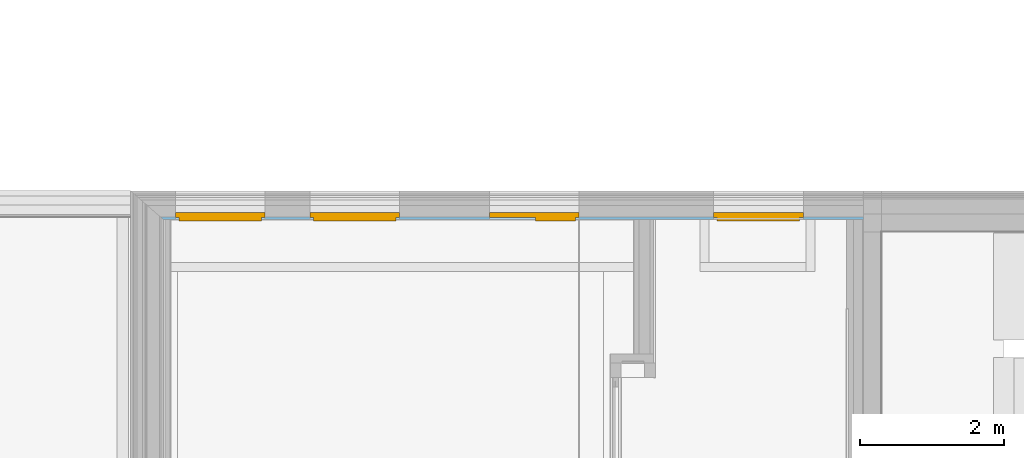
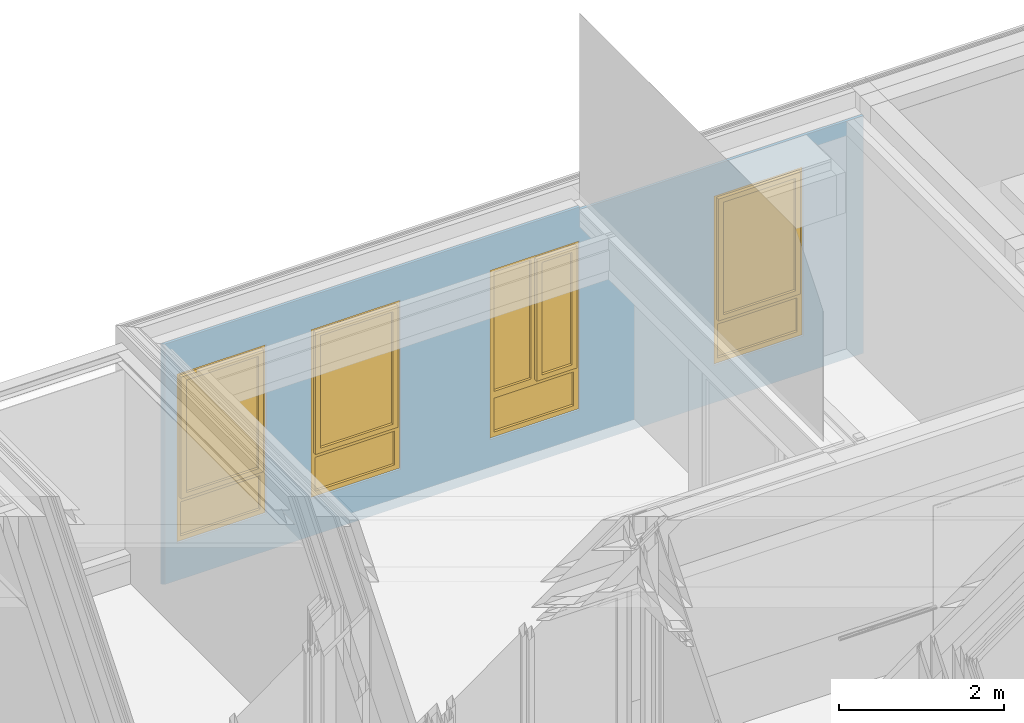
# One storey, part 107 of 222: 4 windows, 4 openings, plus 1 element that does not belong to this part.
"""IFC4 building model written with IfcOpenShell, lengths in metres."""

from ifc_helpers import new_model, entity, si_unit, converted_unit, derived_unit, frame, origin, origin_with_axes, place, context, subcontext, project, spatial, polyline, outline, extrude, clip, bounded_halfspace, closed_shell, open_shell, surface_model, source, transform, mapped, material, type_object, element, fill, save


model = new_model("IFC4")

# Units and contexts
model_context = context("Model", 3, precision=1e-05, world=origin())
body_context = subcontext(model_context, "Body", "Model", "MODEL_VIEW")
ifc_project = project(units=[si_unit("LENGTHUNIT", "METRE"), si_unit("AREAUNIT", "SQUARE_METRE"), si_unit("VOLUMEUNIT", "CUBIC_METRE"), si_unit("MASSUNIT", "GRAM", prefix="KILO"), converted_unit("PLANEANGLEUNIT", "DEGREE", entity("IfcPlaneAngleMeasure", 0.0174532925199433), si_unit("PLANEANGLEUNIT", "RADIAN"), dimensions=[0, 0, 0, 0, 0, 0, 0]), derived_unit("THERMALTRANSMITTANCEUNIT", [(si_unit("POWERUNIT", "WATT"), 1), (si_unit("THERMODYNAMICTEMPERATUREUNIT", "KELVIN"), -1), (si_unit("LENGTHUNIT", "METRE"), -2)]), derived_unit("VOLUMETRICFLOWRATEUNIT", [(si_unit("LENGTHUNIT", "METRE"), 3), (converted_unit("TIMEUNIT", "hour", entity("IfcTimeMeasure", 3600.0), si_unit("TIMEUNIT", "SECOND"), dimensions=[0, 0, 1, 0, 0, 0, 0]), -1), (si_unit("LENGTHUNIT", "METRE"), -1)])], contexts=[model_context])

# Site, building, storey
site_placement = place(None, origin())
site = spatial("IfcSite", under=ifc_project, at=site_placement, Name="Psychiatrie Neubau Wunstorf", CompositionType="ELEMENT")
building_placement = place(site_placement, origin())
building = spatial("IfcBuilding", under=site, at=building_placement, Name="Neubau H2 Stationsgebäude", CompositionType="ELEMENT")
storey_placement = place(building_placement, frame((0.0, 0.0, 3.6)))
storey = spatial("IfcBuildingStorey", under=building, at=storey_placement, Name="H2 Ebene +1", CompositionType="ELEMENT", Elevation=3.6)

# Wall, openings, windows
ifc_material = material(Name="WA-LB")
wall_placement = place(storey_placement, frame((38.1475, 29.0639996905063, 0.0)))
wall = element("IfcWall", 1, at=wall_placement, inside=storey, material=ifc_material, context=body_context, shape_type="Clipping", body=[
    clip(extrude(outline(polyline([(0.041373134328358, 0.0), (9.79387313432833, 0.0), (9.79387313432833, 0.036), (0.0, 0.036), (0.041373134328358, 0.0)])), frame((-0.041373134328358, 0.0, 0.0), z_axis=(0.0, 0.0, 1.0), x_axis=(1.0, 0.0, 0.0)), (0.0, 0.0, 1.0), 3.55), bounded_halfspace(frame((7.77125000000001, 0.018, 3.51), z_axis=(0.0, 0.0, -1.0), x_axis=(1.0, 0.0, 0.0)), True, origin_with_axes(), polyline([(5.79000000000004, 0.0), (9.75249999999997, 0.0), (9.75249999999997, 0.036), (5.79000000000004, 0.036), (5.79000000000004, 0.0)]))),
])
opening_1_placement = place(wall_placement, frame((3.29000000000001, 0.036, 0.55), z_axis=(0.0, -1.0, 0.0), x_axis=(0.0, 0.0, 1.0)))
opening_1 = element("IfcOpeningElement", 2, at=opening_1_placement, cuts=wall, Name="Fensteröffnung", ObjectType="Opening", context=body_context, shape_type="SweptSolid", body=[
    extrude(outline(polyline([(2.5, 1.25), (2.5, 0.0), (0.0, 0.0), (0.0, 1.25), (2.5, 1.25)])), origin_with_axes(), (0.0, 0.0, 1.0), 0.036),
])
opening_2_placement = place(wall_placement, frame((5.79000000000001, 0.036, 0.55), z_axis=(0.0, -1.0, 0.0), x_axis=(0.0, 0.0, 1.0)))
opening_2 = element("IfcOpeningElement", 3, at=opening_2_placement, cuts=wall, Name="Fensteröffnung", ObjectType="Opening", context=body_context, shape_type="SweptSolid", body=[
    extrude(outline(polyline([(2.5, 1.25), (2.5, 0.0), (0.0, 0.0), (0.0, 1.25), (2.5, 1.25)])), origin_with_axes(), (0.0, 0.0, 1.0), 0.036),
])
opening_3_placement = place(wall_placement, frame((1.41500000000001, 0.036, 0.55), z_axis=(0.0, -1.0, 0.0), x_axis=(0.0, 0.0, 1.0)))
opening_3 = element("IfcOpeningElement", 4, at=opening_3_placement, cuts=wall, Name="Fensteröffnung", ObjectType="Opening", context=body_context, shape_type="SweptSolid", body=[
    extrude(outline(polyline([(2.5, 1.25), (2.5, 0.0), (0.0, 0.0), (0.0, 1.25), (2.5, 1.25)])), origin_with_axes(), (0.0, 0.0, 1.0), 0.036),
])
opening_4_placement = place(wall_placement, frame((8.91500000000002, 0.036, 0.55), z_axis=(0.0, -1.0, 0.0), x_axis=(0.0, 0.0, 1.0)))
opening_4 = element("IfcOpeningElement", 5, at=opening_4_placement, cuts=wall, Name="Fensteröffnung", ObjectType="Opening", context=body_context, shape_type="SweptSolid", body=[
    extrude(outline(polyline([(2.5, 1.25), (2.5, 0.0), (0.0, 0.0), (0.0, 1.25), (2.5, 1.25)])), origin_with_axes(), (0.0, 0.0, 1.0), 0.036),
])
window_type_1 = type_object("IfcWindowType", Name="Fenster", ParameterTakesPrecedence=False, PartitioningType="DOUBLE_PANEL_HORIZONTAL", PredefinedType="WINDOW")
shared_shape_1 = source(origin_with_axes(), body_context, "Body", "SurfaceModel", [
    surface_model("IfcShellBasedSurfaceModel", [(1.25, 0.0, 2.5), (1.25, 0.0, 0.0), (1.18, 0.0, 0.0), (1.18, 0.0, 2.5), (1.25, 0.0699999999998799, 0.0), (1.25, 0.0699999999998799, 2.5), (1.18, 0.0699999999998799, 2.5), (1.18, 0.0699999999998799, 0.0)], [closed_shell([[[0, 1, 2, 3]], [[4, 5, 6, 7]], [[1, 0, 5, 4]], [[2, 1, 4, 7]], [[3, 2, 7, 6]], [[0, 3, 6, 5]]], orient=[[False], [False], [False], [False], [False], [False]])]),
    surface_model("IfcShellBasedSurfaceModel", [(0.07, 0.0, 2.5), (0.07, 0.0, 0.0), (0.0, 0.0, 0.0), (0.0, 0.0, 2.5), (0.07, 0.0699999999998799, 0.0), (0.07, 0.0699999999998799, 2.5), (0.0, 0.0699999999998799, 2.5), (0.0, 0.0699999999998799, 0.0)], [closed_shell([[[0, 1, 2, 3]], [[4, 5, 6, 7]], [[1, 0, 5, 4]], [[2, 1, 4, 7]], [[3, 2, 7, 6]], [[0, 3, 6, 5]]], orient=[[False], [False], [False], [False], [False], [False]])]),
    surface_model("IfcShellBasedSurfaceModel", [(1.18, 0.0, 0.07), (1.18, 0.0, 0.0), (0.07, 0.0, 0.0), (0.07, 0.0, 0.07), (1.18, 0.0699999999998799, 0.0), (1.18, 0.0699999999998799, 0.07), (0.07, 0.0699999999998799, 0.07), (0.07, 0.0699999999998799, 0.0)], [closed_shell([[[0, 1, 2, 3]], [[4, 5, 6, 7]], [[1, 0, 5, 4]], [[2, 1, 4, 7]], [[3, 2, 7, 6]], [[0, 3, 6, 5]]], orient=[[False], [False], [False], [False], [False], [False]])]),
    surface_model("IfcShellBasedSurfaceModel", [(1.18, 0.0, 2.5), (1.18, 0.0, 2.43), (0.07, 0.0, 2.43), (0.07, 0.0, 2.5), (1.18, 0.0699999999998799, 2.43), (1.18, 0.0699999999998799, 2.5), (0.07, 0.0699999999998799, 2.5), (0.07, 0.0699999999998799, 2.43)], [closed_shell([[[0, 1, 2, 3]], [[4, 5, 6, 7]], [[1, 0, 5, 4]], [[2, 1, 4, 7]], [[3, 2, 7, 6]], [[0, 3, 6, 5]]], orient=[[False], [False], [False], [False], [False], [False]])]),
    surface_model("IfcShellBasedSurfaceModel", [(1.18, 0.0, 0.67), (1.18, 0.0, 0.57), (0.07, 0.0, 0.57), (0.07, 0.0, 0.67), (1.18, 0.0699999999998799, 0.57), (1.18, 0.0699999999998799, 0.67), (0.07, 0.0699999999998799, 0.67), (0.07, 0.0699999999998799, 0.57)], [closed_shell([[[0, 1, 2, 3]], [[4, 5, 6, 7]], [[1, 0, 5, 4]], [[2, 1, 4, 7]], [[3, 2, 7, 6]], [[0, 3, 6, 5]]], orient=[[False], [False], [False], [False], [False], [False]])]),
    surface_model("IfcShellBasedSurfaceModel", [(1.18, 0.0349999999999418, 0.07), (0.07, 0.0349999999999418, 0.07), (0.07, 0.0349999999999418, 0.57), (1.18, 0.0349999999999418, 0.57)], [open_shell([[[0, 1, 2, 3]]], orient=[[False]])]),
    surface_model("IfcShellBasedSurfaceModel", [(1.2, 0.0499999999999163, 2.45), (1.2, 0.0499999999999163, 0.65), (1.13, 0.0499999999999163, 0.65), (1.13, 0.0499999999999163, 2.45), (1.2, 0.119999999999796, 0.65), (1.2, 0.119999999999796, 2.45), (1.13, 0.119999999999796, 2.45), (1.13, 0.119999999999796, 0.65)], [closed_shell([[[0, 1, 2, 3]], [[4, 5, 6, 7]], [[1, 0, 5, 4]], [[2, 1, 4, 7]], [[3, 2, 7, 6]], [[0, 3, 6, 5]]], orient=[[False], [False], [False], [False], [False], [False]])]),
    surface_model("IfcShellBasedSurfaceModel", [(0.12, 0.0499999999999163, 2.45), (0.12, 0.0499999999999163, 0.65), (0.05, 0.0499999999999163, 0.65), (0.05, 0.0499999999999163, 2.45), (0.12, 0.119999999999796, 0.65), (0.12, 0.119999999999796, 2.45), (0.05, 0.119999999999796, 2.45), (0.05, 0.119999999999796, 0.65)], [closed_shell([[[0, 1, 2, 3]], [[4, 5, 6, 7]], [[1, 0, 5, 4]], [[2, 1, 4, 7]], [[3, 2, 7, 6]], [[0, 3, 6, 5]]], orient=[[False], [False], [False], [False], [False], [False]])]),
    surface_model("IfcShellBasedSurfaceModel", [(1.13, 0.0499999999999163, 0.72), (1.13, 0.0499999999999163, 0.65), (0.12, 0.0499999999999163, 0.65), (0.12, 0.0499999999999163, 0.72), (1.13, 0.119999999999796, 0.65), (1.13, 0.119999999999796, 0.72), (0.12, 0.119999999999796, 0.72), (0.12, 0.119999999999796, 0.65)], [closed_shell([[[0, 1, 2, 3]], [[4, 5, 6, 7]], [[1, 0, 5, 4]], [[2, 1, 4, 7]], [[3, 2, 7, 6]], [[0, 3, 6, 5]]], orient=[[False], [False], [False], [False], [False], [False]])]),
    surface_model("IfcShellBasedSurfaceModel", [(1.13, 0.0499999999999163, 2.45), (1.13, 0.0499999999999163, 2.38), (0.12, 0.0499999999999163, 2.38), (0.12, 0.0499999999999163, 2.45), (1.13, 0.119999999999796, 2.38), (1.13, 0.119999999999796, 2.45), (0.12, 0.119999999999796, 2.45), (0.12, 0.119999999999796, 2.38)], [closed_shell([[[0, 1, 2, 3]], [[4, 5, 6, 7]], [[1, 0, 5, 4]], [[2, 1, 4, 7]], [[3, 2, 7, 6]], [[0, 3, 6, 5]]], orient=[[False], [False], [False], [False], [False], [False]])]),
    surface_model("IfcShellBasedSurfaceModel", [(1.13, 0.0849999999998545, 0.72), (0.12, 0.0849999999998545, 0.72), (0.12, 0.0849999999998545, 2.38), (1.13, 0.0849999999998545, 2.38)], [open_shell([[[0, 1, 2, 3]]], orient=[[False]])]),
])
window_1_placement = place(opening_1_placement, frame((0.0, 0.0, -0.064), z_axis=(1.0, 0.0, 0.0), x_axis=(0.0, 1.0, 0.0)))
window_1 = element("IfcWindow", 6, at=window_1_placement, inside=storey, type_object=window_type_1, Name="Fenster", OverallHeight=2.5, OverallWidth=1.25, context=body_context, shape_type="MappedRepresentation", body=[
    mapped(shared_shape_1, transform((0.0, 0.0, 0.0), x_axis=(1.0, 0.0, 0.0), y_axis=(0.0, 1.0, 0.0), z_axis=(0.0, 0.0, 1.0), scale=1.0)),
])
fill(opening_1, window_1)
shared_shape_2 = source(origin_with_axes(), body_context, "Body", "SurfaceModel", [
    surface_model("IfcShellBasedSurfaceModel", [(1.25, 0.0, 2.5), (1.25, 0.0, 0.0), (1.18, 0.0, 0.0), (1.18, 0.0, 2.5), (1.25, 0.07, 0.0), (1.25, 0.07, 2.5), (1.18, 0.07, 2.5), (1.18, 0.07, 0.0)], [closed_shell([[[0, 1, 2, 3]], [[4, 5, 6, 7]], [[1, 0, 5, 4]], [[2, 1, 4, 7]], [[3, 2, 7, 6]], [[0, 3, 6, 5]]], orient=[[False], [False], [False], [False], [False], [False]])]),
    surface_model("IfcShellBasedSurfaceModel", [(0.07, 0.0, 2.5), (0.07, 0.0, 0.0), (0.0, 0.0, 0.0), (0.0, 0.0, 2.5), (0.07, 0.07, 0.0), (0.07, 0.07, 2.5), (0.0, 0.07, 2.5), (0.0, 0.07, 0.0)], [closed_shell([[[0, 1, 2, 3]], [[4, 5, 6, 7]], [[1, 0, 5, 4]], [[2, 1, 4, 7]], [[3, 2, 7, 6]], [[0, 3, 6, 5]]], orient=[[False], [False], [False], [False], [False], [False]])]),
    surface_model("IfcShellBasedSurfaceModel", [(1.18, 0.0, 0.07), (1.18, 0.0, 0.0), (0.07, 0.0, 0.0), (0.07, 0.0, 0.07), (1.18, 0.07, 0.0), (1.18, 0.07, 0.07), (0.07, 0.07, 0.07), (0.07, 0.07, 0.0)], [closed_shell([[[0, 1, 2, 3]], [[4, 5, 6, 7]], [[1, 0, 5, 4]], [[2, 1, 4, 7]], [[3, 2, 7, 6]], [[0, 3, 6, 5]]], orient=[[False], [False], [False], [False], [False], [False]])]),
    surface_model("IfcShellBasedSurfaceModel", [(1.18, 0.0, 2.5), (1.18, 0.0, 2.43), (0.07, 0.0, 2.43), (0.07, 0.0, 2.5), (1.18, 0.07, 2.43), (1.18, 0.07, 2.5), (0.07, 0.07, 2.5), (0.07, 0.07, 2.43)], [closed_shell([[[0, 1, 2, 3]], [[4, 5, 6, 7]], [[1, 0, 5, 4]], [[2, 1, 4, 7]], [[3, 2, 7, 6]], [[0, 3, 6, 5]]], orient=[[False], [False], [False], [False], [False], [False]])]),
    surface_model("IfcShellBasedSurfaceModel", [(1.18, 0.0, 0.67), (1.18, 0.0, 0.57), (0.07, 0.0, 0.57), (0.07, 0.0, 0.67), (1.18, 0.07, 0.57), (1.18, 0.07, 0.67), (0.07, 0.07, 0.67), (0.07, 0.07, 0.57)], [closed_shell([[[0, 1, 2, 3]], [[4, 5, 6, 7]], [[1, 0, 5, 4]], [[2, 1, 4, 7]], [[3, 2, 7, 6]], [[0, 3, 6, 5]]], orient=[[False], [False], [False], [False], [False], [False]])]),
    surface_model("IfcShellBasedSurfaceModel", [(1.18, 0.0350000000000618, 0.07), (0.07, 0.0350000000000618, 0.07), (0.07, 0.0350000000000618, 0.57), (1.18, 0.0350000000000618, 0.57)], [open_shell([[[0, 1, 2, 3]]], orient=[[False]])]),
    surface_model("IfcShellBasedSurfaceModel", [(0.66, 0.0, 2.43), (0.66, 0.0, 0.67), (0.59, 0.0, 0.67), (0.59, 0.0, 2.43), (0.66, 0.07, 0.67), (0.66, 0.07, 2.43), (0.59, 0.07, 2.43), (0.59, 0.07, 0.67)], [closed_shell([[[0, 1, 2, 3]], [[4, 5, 6, 7]], [[1, 0, 5, 4]], [[2, 1, 4, 7]], [[3, 2, 7, 6]], [[0, 3, 6, 5]]], orient=[[False], [False], [False], [False], [False], [False]])]),
    surface_model("IfcShellBasedSurfaceModel", [(1.2, -0.0499999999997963, 2.45), (1.2, -0.0499999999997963, 0.65), (1.13, -0.0499999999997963, 0.65), (1.13, -0.0499999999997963, 2.45), (1.2, 0.0200000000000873, 0.65), (1.2, 0.0200000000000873, 2.45), (1.13, 0.0200000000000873, 2.45), (1.13, 0.0200000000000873, 0.65)], [closed_shell([[[0, 1, 2, 3]], [[4, 5, 6, 7]], [[1, 0, 5, 4]], [[2, 1, 4, 7]], [[3, 2, 7, 6]], [[0, 3, 6, 5]]], orient=[[False], [False], [False], [False], [False], [False]])]),
    surface_model("IfcShellBasedSurfaceModel", [(0.71, -0.0499999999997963, 2.45), (0.71, -0.0499999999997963, 0.65), (0.64, -0.0499999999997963, 0.65), (0.64, -0.0499999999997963, 2.45), (0.71, 0.0200000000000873, 0.65), (0.71, 0.0200000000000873, 2.45), (0.64, 0.0200000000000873, 2.45), (0.64, 0.0200000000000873, 0.65)], [closed_shell([[[0, 1, 2, 3]], [[4, 5, 6, 7]], [[1, 0, 5, 4]], [[2, 1, 4, 7]], [[3, 2, 7, 6]], [[0, 3, 6, 5]]], orient=[[False], [False], [False], [False], [False], [False]])]),
    surface_model("IfcShellBasedSurfaceModel", [(1.13, -0.0499999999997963, 0.72), (1.13, -0.0499999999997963, 0.65), (0.71, -0.0499999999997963, 0.65), (0.71, -0.0499999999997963, 0.72), (1.13, 0.0200000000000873, 0.65), (1.13, 0.0200000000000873, 0.72), (0.71, 0.0200000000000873, 0.72), (0.71, 0.0200000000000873, 0.65)], [closed_shell([[[0, 1, 2, 3]], [[4, 5, 6, 7]], [[1, 0, 5, 4]], [[2, 1, 4, 7]], [[3, 2, 7, 6]], [[0, 3, 6, 5]]], orient=[[False], [False], [False], [False], [False], [False]])]),
    surface_model("IfcShellBasedSurfaceModel", [(1.13, -0.0499999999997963, 2.45), (1.13, -0.0499999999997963, 2.38), (0.71, -0.0499999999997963, 2.38), (0.71, -0.0499999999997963, 2.45), (1.13, 0.0200000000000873, 2.38), (1.13, 0.0200000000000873, 2.45), (0.71, 0.0200000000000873, 2.45), (0.71, 0.0200000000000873, 2.38)], [closed_shell([[[0, 1, 2, 3]], [[4, 5, 6, 7]], [[1, 0, 5, 4]], [[2, 1, 4, 7]], [[3, 2, 7, 6]], [[0, 3, 6, 5]]], orient=[[False], [False], [False], [False], [False], [False]])]),
    surface_model("IfcShellBasedSurfaceModel", [(0.59, 0.0350000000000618, 0.67), (0.07, 0.0350000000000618, 0.67), (0.07, 0.0350000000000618, 2.43), (0.59, 0.0350000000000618, 2.43)], [open_shell([[[0, 1, 2, 3]]], orient=[[False]])]),
    surface_model("IfcShellBasedSurfaceModel", [(1.13, -0.0149999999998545, 0.72), (0.71, -0.0149999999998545, 0.72), (0.71, -0.0149999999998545, 2.38), (1.13, -0.0149999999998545, 2.38)], [open_shell([[[0, 1, 2, 3]]], orient=[[False]])]),
])
window_2_placement = place(opening_2_placement, frame((0.0, 1.25, 0.006), z_axis=(1.0, 0.0, 0.0), x_axis=(0.0, -1.0, 0.0)))
window_2 = element("IfcWindow", 7, at=window_2_placement, inside=storey, Name="Fenster", OverallHeight=2.5, OverallWidth=1.25, PartitioningType="USERDEFINED", PredefinedType="WINDOW", context=body_context, shape_type="MappedRepresentation", body=[
    mapped(shared_shape_2, transform((0.0, 0.0, 0.0), x_axis=(1.0, 0.0, 0.0), y_axis=(0.0, 1.0, 0.0), z_axis=(0.0, 0.0, 1.0), scale=1.0)),
])
fill(opening_2, window_2)
window_type_2 = type_object("IfcWindowType", Name="Fenster", ParameterTakesPrecedence=False, PartitioningType="DOUBLE_PANEL_HORIZONTAL", PredefinedType="WINDOW")
shared_shape_3 = source(origin_with_axes(), body_context, "Body", "SurfaceModel", [
    surface_model("IfcShellBasedSurfaceModel", [(0.0, 0.0, 2.5), (0.07, 0.0, 2.5), (0.07, 0.0, 0.0), (0.0, 0.0, 0.0), (0.0, 0.0699999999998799, 0.0), (0.07, 0.0699999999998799, 0.0), (0.07, 0.0699999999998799, 2.5), (0.0, 0.0699999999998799, 2.5)], [closed_shell([[[0, 1, 2, 3]], [[4, 5, 6, 7]], [[3, 4, 7, 0]], [[2, 5, 4, 3]], [[1, 6, 5, 2]], [[0, 7, 6, 1]]], orient=[[False], [False], [False], [False], [False], [False]])]),
    surface_model("IfcShellBasedSurfaceModel", [(1.18, 0.0, 2.5), (1.25, 0.0, 2.5), (1.25, 0.0, 0.0), (1.18, 0.0, 0.0), (1.18, 0.0699999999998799, 0.0), (1.25, 0.0699999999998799, 0.0), (1.25, 0.0699999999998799, 2.5), (1.18, 0.0699999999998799, 2.5)], [closed_shell([[[0, 1, 2, 3]], [[4, 5, 6, 7]], [[3, 4, 7, 0]], [[2, 5, 4, 3]], [[1, 6, 5, 2]], [[0, 7, 6, 1]]], orient=[[False], [False], [False], [False], [False], [False]])]),
    surface_model("IfcShellBasedSurfaceModel", [(0.07, 0.0, 0.07), (1.18, 0.0, 0.07), (1.18, 0.0, 0.0), (0.07, 0.0, 0.0), (0.07, 0.0699999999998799, 0.0), (1.18, 0.0699999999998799, 0.0), (1.18, 0.0699999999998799, 0.07), (0.07, 0.0699999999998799, 0.07)], [closed_shell([[[0, 1, 2, 3]], [[4, 5, 6, 7]], [[3, 4, 7, 0]], [[2, 5, 4, 3]], [[1, 6, 5, 2]], [[0, 7, 6, 1]]], orient=[[False], [False], [False], [False], [False], [False]])]),
    surface_model("IfcShellBasedSurfaceModel", [(0.07, 0.0, 2.5), (1.18, 0.0, 2.5), (1.18, 0.0, 2.43), (0.07, 0.0, 2.43), (0.07, 0.0699999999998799, 2.43), (1.18, 0.0699999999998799, 2.43), (1.18, 0.0699999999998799, 2.5), (0.07, 0.0699999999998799, 2.5)], [closed_shell([[[0, 1, 2, 3]], [[4, 5, 6, 7]], [[3, 4, 7, 0]], [[2, 5, 4, 3]], [[1, 6, 5, 2]], [[0, 7, 6, 1]]], orient=[[False], [False], [False], [False], [False], [False]])]),
    surface_model("IfcShellBasedSurfaceModel", [(0.07, 0.0, 0.67), (1.18, 0.0, 0.67), (1.18, 0.0, 0.57), (0.07, 0.0, 0.57), (0.07, 0.0699999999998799, 0.57), (1.18, 0.0699999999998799, 0.57), (1.18, 0.0699999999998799, 0.67), (0.07, 0.0699999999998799, 0.67)], [closed_shell([[[0, 1, 2, 3]], [[4, 5, 6, 7]], [[3, 4, 7, 0]], [[2, 5, 4, 3]], [[1, 6, 5, 2]], [[0, 7, 6, 1]]], orient=[[False], [False], [False], [False], [False], [False]])]),
    surface_model("IfcShellBasedSurfaceModel", [(0.07, 0.0349999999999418, 0.07), (0.07, 0.0349999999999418, 0.57), (1.18, 0.0349999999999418, 0.57), (1.18, 0.0349999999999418, 0.07)], [open_shell([[[0, 1, 2, 3]]], orient=[[False]])]),
    surface_model("IfcShellBasedSurfaceModel", [(0.05, 0.0499999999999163, 2.45), (0.12, 0.0499999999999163, 2.45), (0.12, 0.0499999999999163, 0.65), (0.05, 0.0499999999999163, 0.65), (0.05, 0.119999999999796, 0.65), (0.12, 0.119999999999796, 0.65), (0.12, 0.119999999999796, 2.45), (0.05, 0.119999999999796, 2.45)], [closed_shell([[[0, 1, 2, 3]], [[4, 5, 6, 7]], [[3, 4, 7, 0]], [[2, 5, 4, 3]], [[1, 6, 5, 2]], [[0, 7, 6, 1]]], orient=[[False], [False], [False], [False], [False], [False]])]),
    surface_model("IfcShellBasedSurfaceModel", [(1.13, 0.0499999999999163, 2.45), (1.2, 0.0499999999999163, 2.45), (1.2, 0.0499999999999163, 0.65), (1.13, 0.0499999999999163, 0.65), (1.13, 0.119999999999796, 0.65), (1.2, 0.119999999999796, 0.65), (1.2, 0.119999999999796, 2.45), (1.13, 0.119999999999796, 2.45)], [closed_shell([[[0, 1, 2, 3]], [[4, 5, 6, 7]], [[3, 4, 7, 0]], [[2, 5, 4, 3]], [[1, 6, 5, 2]], [[0, 7, 6, 1]]], orient=[[False], [False], [False], [False], [False], [False]])]),
    surface_model("IfcShellBasedSurfaceModel", [(0.12, 0.0499999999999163, 0.72), (1.13, 0.0499999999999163, 0.72), (1.13, 0.0499999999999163, 0.65), (0.12, 0.0499999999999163, 0.65), (0.12, 0.119999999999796, 0.65), (1.13, 0.119999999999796, 0.65), (1.13, 0.119999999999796, 0.72), (0.12, 0.119999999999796, 0.72)], [closed_shell([[[0, 1, 2, 3]], [[4, 5, 6, 7]], [[3, 4, 7, 0]], [[2, 5, 4, 3]], [[1, 6, 5, 2]], [[0, 7, 6, 1]]], orient=[[False], [False], [False], [False], [False], [False]])]),
    surface_model("IfcShellBasedSurfaceModel", [(0.12, 0.0499999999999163, 2.45), (1.13, 0.0499999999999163, 2.45), (1.13, 0.0499999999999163, 2.38), (0.12, 0.0499999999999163, 2.38), (0.12, 0.119999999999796, 2.38), (1.13, 0.119999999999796, 2.38), (1.13, 0.119999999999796, 2.45), (0.12, 0.119999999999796, 2.45)], [closed_shell([[[0, 1, 2, 3]], [[4, 5, 6, 7]], [[3, 4, 7, 0]], [[2, 5, 4, 3]], [[1, 6, 5, 2]], [[0, 7, 6, 1]]], orient=[[False], [False], [False], [False], [False], [False]])]),
    surface_model("IfcShellBasedSurfaceModel", [(0.12, 0.0849999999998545, 0.72), (0.12, 0.0849999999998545, 2.38), (1.13, 0.0849999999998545, 2.38), (1.13, 0.0849999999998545, 0.72)], [open_shell([[[0, 1, 2, 3]]], orient=[[False]])]),
])
window_3_placement = place(opening_3_placement, frame((0.0, 0.0, -0.064), z_axis=(1.0, 0.0, 0.0), x_axis=(0.0, 1.0, 0.0)))
window_3 = element("IfcWindow", 8, at=window_3_placement, inside=storey, type_object=window_type_2, Name="Fenster", OverallHeight=2.5, OverallWidth=1.25, context=body_context, shape_type="MappedRepresentation", body=[
    mapped(shared_shape_3, transform((0.0, 0.0, 0.0), x_axis=(1.0, 0.0, 0.0), y_axis=(0.0, 1.0, 0.0), z_axis=(0.0, 0.0, 1.0), scale=1.0)),
])
fill(opening_3, window_3)
window_type_3 = type_object("IfcWindowType", Name="Fenster", ParameterTakesPrecedence=False, PartitioningType="DOUBLE_PANEL_HORIZONTAL", PredefinedType="WINDOW")
shared_shape_4 = source(origin_with_axes(), body_context, "Body", "SurfaceModel", [
    surface_model("IfcShellBasedSurfaceModel", [(0.0, 0.0, 2.5), (0.07, 0.0, 2.5), (0.07, 0.0, 0.0), (0.0, 0.0, 0.0), (0.0, 0.0699999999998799, 0.0), (0.07, 0.0699999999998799, 0.0), (0.07, 0.0699999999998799, 2.5), (0.0, 0.0699999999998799, 2.5)], [closed_shell([[[0, 1, 2, 3]], [[4, 5, 6, 7]], [[3, 4, 7, 0]], [[2, 5, 4, 3]], [[1, 6, 5, 2]], [[0, 7, 6, 1]]], orient=[[False], [False], [False], [False], [False], [False]])]),
    surface_model("IfcShellBasedSurfaceModel", [(1.18, 0.0, 2.5), (1.25, 0.0, 2.5), (1.25, 0.0, 0.0), (1.18, 0.0, 0.0), (1.18, 0.0699999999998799, 0.0), (1.25, 0.0699999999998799, 0.0), (1.25, 0.0699999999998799, 2.5), (1.18, 0.0699999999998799, 2.5)], [closed_shell([[[0, 1, 2, 3]], [[4, 5, 6, 7]], [[3, 4, 7, 0]], [[2, 5, 4, 3]], [[1, 6, 5, 2]], [[0, 7, 6, 1]]], orient=[[False], [False], [False], [False], [False], [False]])]),
    surface_model("IfcShellBasedSurfaceModel", [(0.07, 0.0, 0.07), (1.18, 0.0, 0.07), (1.18, 0.0, 0.0), (0.07, 0.0, 0.0), (0.07, 0.0699999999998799, 0.0), (1.18, 0.0699999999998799, 0.0), (1.18, 0.0699999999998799, 0.07), (0.07, 0.0699999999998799, 0.07)], [closed_shell([[[0, 1, 2, 3]], [[4, 5, 6, 7]], [[3, 4, 7, 0]], [[2, 5, 4, 3]], [[1, 6, 5, 2]], [[0, 7, 6, 1]]], orient=[[False], [False], [False], [False], [False], [False]])]),
    surface_model("IfcShellBasedSurfaceModel", [(0.07, 0.0, 2.5), (1.18, 0.0, 2.5), (1.18, 0.0, 2.43), (0.07, 0.0, 2.43), (0.07, 0.0699999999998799, 2.43), (1.18, 0.0699999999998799, 2.43), (1.18, 0.0699999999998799, 2.5), (0.07, 0.0699999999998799, 2.5)], [closed_shell([[[0, 1, 2, 3]], [[4, 5, 6, 7]], [[3, 4, 7, 0]], [[2, 5, 4, 3]], [[1, 6, 5, 2]], [[0, 7, 6, 1]]], orient=[[False], [False], [False], [False], [False], [False]])]),
    surface_model("IfcShellBasedSurfaceModel", [(0.07, 0.0, 0.67), (1.18, 0.0, 0.67), (1.18, 0.0, 0.57), (0.07, 0.0, 0.57), (0.07, 0.0699999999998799, 0.57), (1.18, 0.0699999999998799, 0.57), (1.18, 0.0699999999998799, 0.67), (0.07, 0.0699999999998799, 0.67)], [closed_shell([[[0, 1, 2, 3]], [[4, 5, 6, 7]], [[3, 4, 7, 0]], [[2, 5, 4, 3]], [[1, 6, 5, 2]], [[0, 7, 6, 1]]], orient=[[False], [False], [False], [False], [False], [False]])]),
    surface_model("IfcShellBasedSurfaceModel", [(0.07, 0.0349999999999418, 0.07), (0.07, 0.0349999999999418, 0.57), (1.18, 0.0349999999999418, 0.57), (1.18, 0.0349999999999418, 0.07)], [open_shell([[[0, 1, 2, 3]]], orient=[[False]])]),
    surface_model("IfcShellBasedSurfaceModel", [(0.05, 0.0499999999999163, 2.45), (0.12, 0.0499999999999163, 2.45), (0.12, 0.0499999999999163, 0.65), (0.05, 0.0499999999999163, 0.65), (0.05, 0.119999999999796, 0.65), (0.12, 0.119999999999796, 0.65), (0.12, 0.119999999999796, 2.45), (0.05, 0.119999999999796, 2.45)], [closed_shell([[[0, 1, 2, 3]], [[4, 5, 6, 7]], [[3, 4, 7, 0]], [[2, 5, 4, 3]], [[1, 6, 5, 2]], [[0, 7, 6, 1]]], orient=[[False], [False], [False], [False], [False], [False]])]),
    surface_model("IfcShellBasedSurfaceModel", [(1.13, 0.0499999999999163, 2.45), (1.2, 0.0499999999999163, 2.45), (1.2, 0.0499999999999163, 0.65), (1.13, 0.0499999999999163, 0.65), (1.13, 0.119999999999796, 0.65), (1.2, 0.119999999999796, 0.65), (1.2, 0.119999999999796, 2.45), (1.13, 0.119999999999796, 2.45)], [closed_shell([[[0, 1, 2, 3]], [[4, 5, 6, 7]], [[3, 4, 7, 0]], [[2, 5, 4, 3]], [[1, 6, 5, 2]], [[0, 7, 6, 1]]], orient=[[False], [False], [False], [False], [False], [False]])]),
    surface_model("IfcShellBasedSurfaceModel", [(0.12, 0.0499999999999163, 0.72), (1.13, 0.0499999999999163, 0.72), (1.13, 0.0499999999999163, 0.65), (0.12, 0.0499999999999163, 0.65), (0.12, 0.119999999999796, 0.65), (1.13, 0.119999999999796, 0.65), (1.13, 0.119999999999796, 0.72), (0.12, 0.119999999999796, 0.72)], [closed_shell([[[0, 1, 2, 3]], [[4, 5, 6, 7]], [[3, 4, 7, 0]], [[2, 5, 4, 3]], [[1, 6, 5, 2]], [[0, 7, 6, 1]]], orient=[[False], [False], [False], [False], [False], [False]])]),
    surface_model("IfcShellBasedSurfaceModel", [(0.12, 0.0499999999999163, 2.45), (1.13, 0.0499999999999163, 2.45), (1.13, 0.0499999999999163, 2.38), (0.12, 0.0499999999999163, 2.38), (0.12, 0.119999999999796, 2.38), (1.13, 0.119999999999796, 2.38), (1.13, 0.119999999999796, 2.45), (0.12, 0.119999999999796, 2.45)], [closed_shell([[[0, 1, 2, 3]], [[4, 5, 6, 7]], [[3, 4, 7, 0]], [[2, 5, 4, 3]], [[1, 6, 5, 2]], [[0, 7, 6, 1]]], orient=[[False], [False], [False], [False], [False], [False]])]),
    surface_model("IfcShellBasedSurfaceModel", [(0.12, 0.0849999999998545, 0.72), (0.12, 0.0849999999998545, 2.38), (1.13, 0.0849999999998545, 2.38), (1.13, 0.0849999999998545, 0.72)], [open_shell([[[0, 1, 2, 3]]], orient=[[False]])]),
])
window_4_placement = place(opening_4_placement, frame((0.0, 0.0, -0.064), z_axis=(1.0, 0.0, 0.0), x_axis=(0.0, 1.0, 0.0)))
window_4 = element("IfcWindow", 9, at=window_4_placement, inside=storey, type_object=window_type_3, Name="Fenster", OverallHeight=2.5, OverallWidth=1.25, context=body_context, shape_type="MappedRepresentation", body=[
    mapped(shared_shape_4, transform((0.0, 0.0, 0.0), x_axis=(1.0, 0.0, 0.0), y_axis=(0.0, 1.0, 0.0), z_axis=(0.0, 0.0, 1.0), scale=1.0)),
])
fill(opening_4, window_4)

save(model, "model.ifc")
